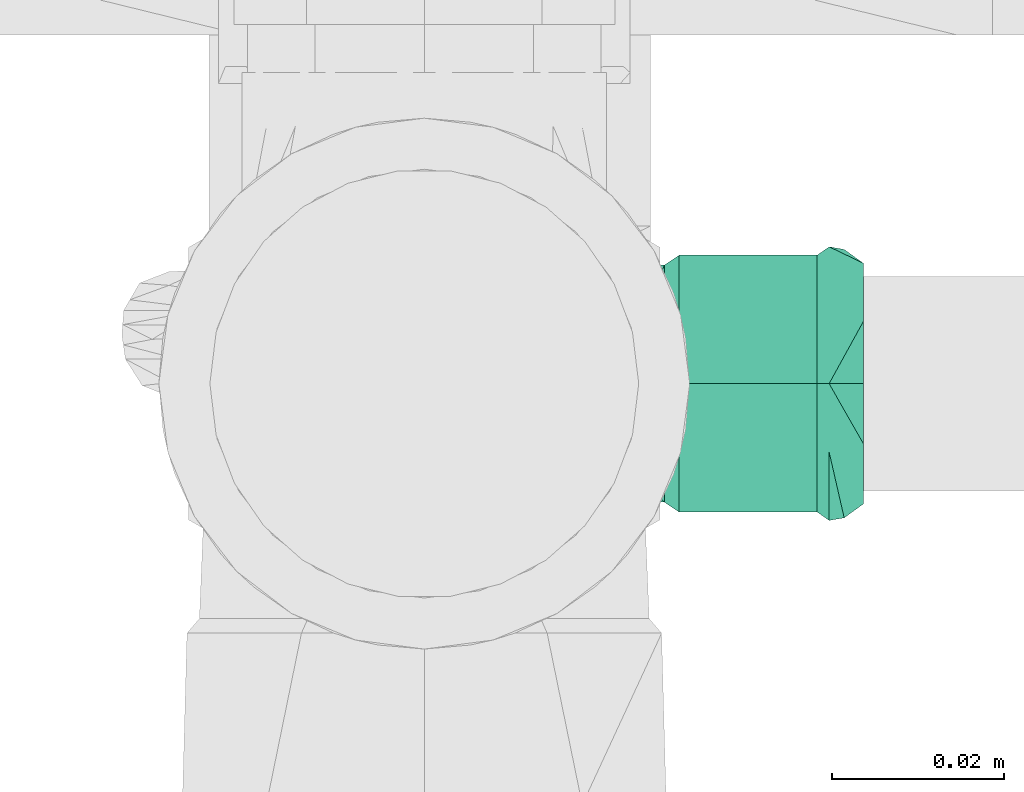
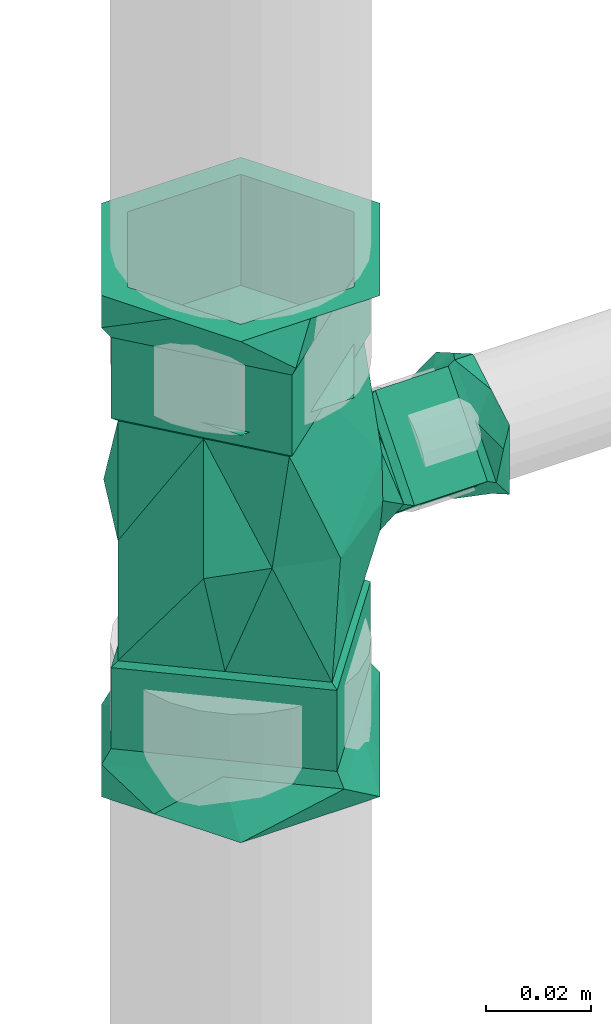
# One storey, part 241 of 589: 1 flow fitting.
"""IFC2X3 building model written with IfcOpenShell, lengths in millimetres."""

from ifc_helpers import new_model, entity, si_unit, converted_unit, derived_unit, direction, frame, origin, place, context, subcontext, project, spatial, faceted_brep, source, transform, mapped, material, type_object, type_shapes, element, save


model = new_model("IFC2X3")

# Units and contexts
model_context = context("Model", 3, precision=0.01, world=origin(), true_north=direction((6.123031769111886e-17, 1.0)))
body_context = subcontext(model_context, "Body", "Model", "MODEL_VIEW")
ifc_project = project(units=[si_unit("LENGTHUNIT", "METRE", prefix="MILLI"), si_unit("AREAUNIT", "SQUARE_METRE"), si_unit("VOLUMEUNIT", "CUBIC_METRE"), converted_unit("PLANEANGLEUNIT", "DEGREE", entity("IfcRatioMeasure", 0.017453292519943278), si_unit("PLANEANGLEUNIT", "RADIAN"), dimensions=[0, 0, 0, 0, 0, 0, 0]), si_unit("MASSUNIT", "GRAM", prefix="KILO"), derived_unit("MASSDENSITYUNIT", [(si_unit("MASSUNIT", "GRAM", prefix="KILO"), 1), (si_unit("LENGTHUNIT", "METRE"), -3)]), derived_unit("IONCONCENTRATIONUNIT", [(si_unit("MASSUNIT", "GRAM", prefix="KILO"), 1), (si_unit("LENGTHUNIT", "METRE"), -3)]), derived_unit("MOMENTOFINERTIAUNIT", [(si_unit("LENGTHUNIT", "METRE"), 4)]), si_unit("TIMEUNIT", "SECOND"), si_unit("FREQUENCYUNIT", "HERTZ"), si_unit("THERMODYNAMICTEMPERATUREUNIT", "DEGREE_CELSIUS"), derived_unit("THERMALTRANSMITTANCEUNIT", [(si_unit("MASSUNIT", "GRAM", prefix="KILO"), 1), (si_unit("THERMODYNAMICTEMPERATUREUNIT", "KELVIN"), -1), (si_unit("TIMEUNIT", "SECOND"), -3)]), derived_unit("THERMALCONDUCTANCEUNIT", [(si_unit("MASSUNIT", "GRAM", prefix="KILO"), 1), (si_unit("THERMODYNAMICTEMPERATUREUNIT", "KELVIN"), -1), (si_unit("TIMEUNIT", "SECOND"), -3), (si_unit("LENGTHUNIT", "METRE"), 1)]), derived_unit("VOLUMETRICFLOWRATEUNIT", [(si_unit("LENGTHUNIT", "METRE"), 3), (si_unit("TIMEUNIT", "SECOND"), -1)]), derived_unit("MASSFLOWRATEUNIT", [(si_unit("MASSUNIT", "GRAM", prefix="KILO"), 1), (si_unit("TIMEUNIT", "SECOND"), -1)]), derived_unit("ROTATIONALFREQUENCYUNIT", [(si_unit("TIMEUNIT", "SECOND"), -1)]), si_unit("ELECTRICCURRENTUNIT", "AMPERE"), si_unit("ELECTRICVOLTAGEUNIT", "VOLT"), si_unit("POWERUNIT", "WATT"), si_unit("FORCEUNIT", "NEWTON", prefix="KILO"), si_unit("ILLUMINANCEUNIT", "LUX"), si_unit("LUMINOUSFLUXUNIT", "LUMEN"), si_unit("LUMINOUSINTENSITYUNIT", "CANDELA"), derived_unit("USERDEFINED", [(si_unit("MASSUNIT", "GRAM", prefix="KILO"), -1), (si_unit("LENGTHUNIT", "METRE"), -2), (si_unit("TIMEUNIT", "SECOND"), 3), (si_unit("LUMINOUSFLUXUNIT", "LUMEN"), 1)]), derived_unit("USERDEFINED", [(si_unit("MASSUNIT", "GRAM", prefix="KILO"), 1), (si_unit("TIMEUNIT", "SECOND"), -3), (si_unit("LENGTHUNIT", "METRE"), 3), (si_unit("ELECTRICCURRENTUNIT", "AMPERE"), -2)]), derived_unit("SOUNDPOWERUNIT", [(si_unit("MASSUNIT", "GRAM", prefix="KILO"), 1), (si_unit("TIMEUNIT", "SECOND"), -3), (si_unit("LENGTHUNIT", "METRE"), 2)]), derived_unit("SOUNDPRESSUREUNIT", [(si_unit("MASSUNIT", "GRAM", prefix="KILO"), 1), (si_unit("LENGTHUNIT", "METRE"), -1), (si_unit("TIMEUNIT", "SECOND"), -2)]), derived_unit("LINEARVELOCITYUNIT", [(si_unit("LENGTHUNIT", "METRE"), 1), (si_unit("TIMEUNIT", "SECOND"), -1)]), si_unit("PRESSUREUNIT", "PASCAL"), derived_unit("USERDEFINED", [(si_unit("MASSUNIT", "GRAM", prefix="KILO"), 1), (si_unit("LENGTHUNIT", "METRE"), -2), (si_unit("TIMEUNIT", "SECOND"), -2)]), derived_unit("LINEARFORCEUNIT", [(si_unit("MASSUNIT", "GRAM", prefix="KILO"), 1), (si_unit("TIMEUNIT", "SECOND"), -2)]), derived_unit("PLANARFORCEUNIT", [(si_unit("MASSUNIT", "GRAM", prefix="KILO"), 1), (si_unit("LENGTHUNIT", "METRE"), -1), (si_unit("TIMEUNIT", "SECOND"), -2)]), derived_unit("SPECIFICHEATCAPACITYUNIT", [(si_unit("THERMODYNAMICTEMPERATUREUNIT", "KELVIN"), -1), (si_unit("LENGTHUNIT", "METRE"), 2), (si_unit("TIMEUNIT", "SECOND"), -2)]), derived_unit("HEATINGVALUEUNIT", [(si_unit("LENGTHUNIT", "METRE"), 2), (si_unit("TIMEUNIT", "SECOND"), -2)]), derived_unit("VAPORPERMEABILITYUNIT", [(si_unit("LENGTHUNIT", "METRE"), -1), (si_unit("TIMEUNIT", "SECOND"), 1)]), derived_unit("DYNAMICVISCOSITYUNIT", [(si_unit("MASSUNIT", "GRAM", prefix="KILO"), 1), (si_unit("TIMEUNIT", "SECOND"), -1), (si_unit("LENGTHUNIT", "METRE"), -1)]), derived_unit("THERMALEXPANSIONCOEFFICIENTUNIT", [(si_unit("THERMODYNAMICTEMPERATUREUNIT", "KELVIN"), -1)]), derived_unit("MODULUSOFELASTICITYUNIT", [(si_unit("MASSUNIT", "GRAM", prefix="KILO"), 1), (si_unit("LENGTHUNIT", "METRE"), -1), (si_unit("TIMEUNIT", "SECOND"), -2)]), derived_unit("ISOTHERMALMOISTURECAPACITYUNIT", [(si_unit("LENGTHUNIT", "METRE"), 3), (si_unit("MASSUNIT", "GRAM", prefix="KILO"), -1)]), derived_unit("MOISTUREDIFFUSIVITYUNIT", [(si_unit("TIMEUNIT", "SECOND"), -1), (si_unit("LENGTHUNIT", "METRE"), 2)])], contexts=[model_context])

# Site, building, storey
site_placement = place(None, origin())
site = spatial("IfcSite", under=ifc_project, at=site_placement, Name="Default", CompositionType="ELEMENT")
building_placement = place(site_placement, origin())
building = spatial("IfcBuilding", under=site, at=building_placement, CompositionType="ELEMENT")
storey_placement = place(building_placement, frame((0.0, 0.0, 100.0)))
storey = spatial("IfcBuildingStorey", under=building, at=storey_placement, Name="TÉRREO", CompositionType="ELEMENT", Elevation=100.0)

# Flow fitting
ifc_material = material(Name="PVC Marrom")
pipe_fitting_type = type_object("IfcPipeFittingType", Name="PVC Marrom Soldável_Tê e Tê de Reducão_Rodrigo MEP:Tê", PredefinedType="NOTDEFINED", material=ifc_material)
shared_shape = source(origin(), body_context, "Body", "Brep", [
    faceted_brep([(8.099999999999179, -51.19999999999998, -14.029611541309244), (12.500000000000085, -51.19999999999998, 0.0), (6.249999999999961, -51.199999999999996, -10.82531754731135), (12.006116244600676, -51.19999999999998, -7.26401974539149), (-6.250000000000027, -51.20000000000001, -10.825317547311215), (0.0, -51.2, -14.02961154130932), (16.20000000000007, -51.199999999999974, 0.0), (6.250000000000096, -51.199999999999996, 10.825317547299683), (12.15000000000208, -51.19999999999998, 7.014805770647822), (8.10000000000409, -51.19999999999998, 14.029611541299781), (-6.249999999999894, -51.20000000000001, 10.825317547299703), (0.0, -51.2, 14.02961154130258), (-8.09999999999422, -51.20000000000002, 14.029611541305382), (-12.00611625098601, -51.20000000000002, 7.2640197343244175), (-16.199999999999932, -51.200000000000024, 0.0), (-12.499999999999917, -51.20000000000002, 0.0), (-12.149999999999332, -51.20000000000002, -7.014805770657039), (-8.099999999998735, -51.20000000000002, -14.0296115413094), (-9.505660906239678, -47.19999999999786, 7.977099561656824), (-2.81132181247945, -47.19999999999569, 15.95419912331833), (4.194176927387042, -48.95626714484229, 15.647647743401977), (-16.199999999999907, -47.200000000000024, 0.0), (16.200000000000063, -47.199999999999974, 0.0), (6.694339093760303, -47.19999999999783, 7.977099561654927), (10.200288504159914, -47.19999999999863, 5.034925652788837), (1.941508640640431, -47.1999999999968, 11.965649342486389), (9.50766188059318, -47.19999999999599, -7.976746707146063), (2.8153237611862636, -47.19999999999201, -15.953493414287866), (-4.191233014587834, -48.95635467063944, -15.648436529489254), (-6.692338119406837, -47.199999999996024, -7.97674670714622), (-10.19988795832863, -47.199999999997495, -5.033979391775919), (-1.938507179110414, -47.199999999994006, -11.965120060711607), (-6.250000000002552, -47.2, -10.825317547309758), (-9.37499999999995, -47.20000000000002, -5.412658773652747), (-12.499999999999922, -47.20000000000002, 0.0), (-8.816048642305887, -45.80000000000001, -6.380790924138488), (-6.249999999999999, -45.80000000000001, -10.82531754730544), (-6.249999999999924, -33.7, -10.825317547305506), (-12.499999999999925, -45.80000000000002, 0.0), (-12.499999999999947, -33.70000000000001, 0.0), (0.0, -47.199999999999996, -10.82531754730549), (6.250000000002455, -47.19999999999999, -10.825317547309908), (6.249999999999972, -45.8, -10.825317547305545), (0.0, -45.800000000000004, -10.825317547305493), (6.250000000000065, -33.699999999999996, -10.825317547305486), (12.50000000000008, -47.19999999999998, 0.0), (8.816048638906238, -47.19999999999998, -6.380790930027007), (9.375000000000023, -45.8, -5.4126587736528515), (12.500000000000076, -45.799999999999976, 0.0), (12.500000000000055, -33.69999999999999, 0.0), (6.249999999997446, -47.19999999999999, 10.825317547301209), (9.37500000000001, -47.19999999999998, 5.4126587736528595), (8.81604864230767, -45.8, 6.380790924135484), (6.249999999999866, -45.8, 10.825317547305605), (6.2499999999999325, -33.699999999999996, 10.825317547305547), (0.0, -47.199999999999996, 10.82531754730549), (-6.2499999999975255, -47.2, 10.82531754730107), (-6.250000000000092, -45.80000000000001, 10.825317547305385), (0.0, -45.800000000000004, 10.825317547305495), (-6.250000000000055, -33.7, 10.825317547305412), (-8.816048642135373, -47.20000000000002, 6.380790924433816), (-9.375000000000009, -45.80000000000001, 5.412658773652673), (-9.570641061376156, -45.79999999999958, -4.724127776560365), (2.6377834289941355, -45.799999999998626, -14.96937201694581), (15.200000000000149, -45.799999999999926, 0.0), (-15.199999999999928, -45.800000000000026, 0.0), (-9.79862070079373, -45.79999999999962, -4.5328084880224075), (8.918891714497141, -45.79999999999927, -7.484686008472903), (-3.941282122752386, -45.799999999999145, -9.44825555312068), (-4.397241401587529, -45.79999999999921, -9.065616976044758), (10.739615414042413, -45.80000000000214, 3.7421774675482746), (6.279230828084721, -45.80000000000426, 7.484354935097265), (1.8188462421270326, -45.80000000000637, 11.226532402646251), (-2.641538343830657, -45.80000000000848, 14.96870987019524), (-6.443631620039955, -45.80000000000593, 10.436910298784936), (-8.920769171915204, -45.800000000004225, 7.484354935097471), (-10.245724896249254, -45.80000000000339, 5.9051107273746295), (-8.918891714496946, -29.700000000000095, 7.4846860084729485), (9.798620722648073, -29.70000000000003, 4.532808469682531), (6.281108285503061, -29.700000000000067, 7.484686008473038), (4.3972414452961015, -29.70000000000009, 9.065616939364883), (-15.199999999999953, -29.700000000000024, 0.0), (-2.637783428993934, -29.70000000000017, 14.96937201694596), (15.200000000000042, -29.699999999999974, 0.0), (8.920769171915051, -29.699999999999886, -7.484354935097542), (2.6415383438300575, -29.699999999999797, -14.968709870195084), (-6.279230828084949, -29.699999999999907, -7.484354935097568), (-8.651615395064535, -28.0, -4.521903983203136), (-5.801761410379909, -28.0, -6.91348643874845), (-3.263230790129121, -28.0, -9.043807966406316), (-14.039999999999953, -28.0, 0.0), (2.436477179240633, -28.0, -13.826972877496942), (8.238238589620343, -28.0, -6.913486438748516), (14.040000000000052, -28.0, 0.0), (5.800025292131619, -28.0, 6.913180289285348), (-2.439949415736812, -28.0, 13.826360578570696), (-9.297801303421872, -28.0, 5.652333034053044), (-8.239974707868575, -28.0, 6.913180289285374), (-13.993250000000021, -27.149999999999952, 0.0), (-8.698026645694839, -24.90789224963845, -10.803675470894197), (0.0, -23.389258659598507, -13.786409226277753), (13.993249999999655, -27.149999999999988, 0.0), (10.886120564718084, -25.729354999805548, -8.667340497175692), (8.698026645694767, -24.907892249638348, 10.803675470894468), (0.0, -23.389258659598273, 13.786409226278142), (-10.886120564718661, -25.729354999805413, 8.667340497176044), (-32.59999999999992, -25.0, 0.0), (-32.59999999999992, -19.790106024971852, 9.023801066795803), (-32.59999999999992, -12.500000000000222, 21.650635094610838), (-32.59999999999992, 0.0, 21.65063509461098), (-32.59999999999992, 12.499999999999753, 21.65063509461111), (-32.59999999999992, 18.749999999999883, 10.825317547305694), (-32.59999999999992, 25.0, 0.0), (-32.59999999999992, 19.790105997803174, -9.023801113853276), (-32.59999999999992, 12.500000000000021, -21.65063509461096), (-32.59999999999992, 0.0, -21.65063509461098), (-32.59999999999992, -12.49999999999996, -21.650635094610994), (-32.59999999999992, -18.749999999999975, -10.825317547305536), (-48.0, -12.500000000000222, 21.650635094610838), (-48.0, -18.750000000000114, 10.825317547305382), (-58.50000000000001, -18.75000000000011, 10.82531754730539), (-58.50000000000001, -12.500000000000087, 21.650635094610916), (-48.0, -19.790106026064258, 9.02380106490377), (-48.0, -25.0, 0.0), (-58.50000000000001, -25.0, 0.0), (32.60000000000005, -25.0, 0.0), (32.60000000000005, -18.74999999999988, 10.825317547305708), (32.60000000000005, -12.499999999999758, 21.65063509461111), (58.5, -12.499999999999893, 21.650635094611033), (58.500000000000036, -19.97114481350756, 8.71023268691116), (58.5, -25.0, 0.0), (-48.0, 0.0, 21.650635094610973), (-48.0, 12.499999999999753, 21.65063509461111), (-58.50000000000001, 0.0, 21.650635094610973), (-58.50000000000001, 12.499999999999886, 21.650635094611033), (32.60000000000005, 0.0, 21.650635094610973), (32.60000000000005, 12.500000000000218, 21.650635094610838), (58.5, 12.500000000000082, 21.650635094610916), (58.5, 0.0, 21.650635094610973), (-48.0, 19.790106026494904, 9.023801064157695), (-48.0, 25.0, 0.0), (-48.0, 18.749999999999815, 10.825317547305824), (-58.49999999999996, 19.79010602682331, 9.023801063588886), (-58.50000000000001, 25.0, 0.0), (32.60000000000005, 19.97114481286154, 8.71023268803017), (32.60000000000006, 25.0, 0.0), (58.5, 25.0, 0.0), (58.5, 18.75000000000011, 10.825317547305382), (-48.0, 12.49999999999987, -21.650635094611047), (-48.0, 18.749999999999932, -10.825317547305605), (-58.50000000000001, 18.749999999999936, -10.825317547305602), (-58.50000000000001, 12.499999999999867, -21.650635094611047), (-48.0, 19.790106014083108, -9.023801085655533), (32.60000000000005, 18.749999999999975, -10.82531754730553), (32.60000000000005, 12.499999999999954, -21.650635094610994), (58.5, 12.5000000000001, -21.650635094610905), (58.500000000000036, 19.97114481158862, -8.710232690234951), (-48.0, 0.0, -21.65063509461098), (-48.0, -12.50000000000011, -21.650635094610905), (-58.50000000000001, 0.0, -21.65063509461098), (-58.50000000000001, -12.500000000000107, -21.650635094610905), (32.60000000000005, 0.0, -21.65063509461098), (32.60000000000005, -12.500000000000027, -21.65063509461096), (58.5, -12.499999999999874, -21.650635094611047), (58.5, 0.0, -21.65063509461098), (-48.0, -19.790106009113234, -9.02380109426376), (-48.0, -18.75000000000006, -10.825317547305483), (-58.49999999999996, -19.79010602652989, -9.023801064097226), (32.60000000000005, -19.971144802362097, -8.710232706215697), (58.5, -18.749999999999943, -10.825317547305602), (-28.0, 15.934137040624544, -13.368436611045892), (0.0, 27.15, 0.0), (0.0, 19.249777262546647, -19.145980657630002), (0.0, 6.194218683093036, -22.707339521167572), (-28.0, 20.511742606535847, -7.912286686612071), (-28.0, 27.15, 0.0), (0.0, -6.861339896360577, -26.268698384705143), (-28.0, 4.718274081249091, -26.73687322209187), (-28.0, -27.15, 0.0), (-28.0, -19.18293147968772, -6.684218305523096), (-28.0, -11.215862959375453, -13.368436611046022), (-28.0, -3.2487944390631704, -20.052654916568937), (-28.0, 10.326205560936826, -20.052654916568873), (-28.0, -15.930783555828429, 13.369027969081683), (0.0, -6.86133989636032, 26.268698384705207), (-28.0, -4.711567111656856, 26.738055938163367), (-28.0, -10.32117533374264, 20.053541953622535), (0.0, 19.24977726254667, 19.145980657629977), (-28.0, 19.60719441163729, 6.329881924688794), (-28.0, 11.219216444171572, 13.369027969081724), (0.0, 6.194218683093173, 22.707339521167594), (-28.0, 3.2538246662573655, 20.05354195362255), (-28.0, -20.510950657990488, 7.911215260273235), (-29.099999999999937, 16.81093734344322, -14.107648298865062), (-29.099999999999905, 10.891406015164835, -21.16147244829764), (-29.099999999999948, -12.730929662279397, -13.359198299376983), (-29.099999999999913, -3.8795274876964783, -20.787247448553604), (-29.099999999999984, -20.690464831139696, -6.679599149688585), (-29.099999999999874, 4.97187468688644, -28.215296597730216), (-29.1, 28.650000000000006, 0.0), (-29.099999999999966, 22.730468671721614, -7.053824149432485), (-29.09999999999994, -11.83906265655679, -14.107648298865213), (-29.100000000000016, -28.649999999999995, 0.0), (-29.100000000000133, -9.809464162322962, 22.456453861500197), (-29.100000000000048, -21.64498805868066, 8.349429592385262), (-29.10000000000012, 3.4282858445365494, 21.160536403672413), (-29.10000000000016, -4.978952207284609, 28.21404853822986), (-29.100000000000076, 11.835523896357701, 14.107024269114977), (-29.10000000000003, 20.242761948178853, 7.053512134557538), (-29.100000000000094, -14.639976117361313, 16.698859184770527), (-29.10000000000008, -16.814476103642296, 14.107024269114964), (-48.0, -4.978952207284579, 28.214048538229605), (-48.0, 28.650000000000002, 0.0), (-48.0, 12.939627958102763, 13.18070205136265), (-48.0, 11.835523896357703, 14.107024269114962), (-48.0, -16.81447610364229, 14.107024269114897), (-48.0, -28.650000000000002, 0.0), (-48.0, 4.971874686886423, -28.215296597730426), (-48.0, -12.94067667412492, -13.183179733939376), (-48.0, -11.839062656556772, -14.107648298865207), (-48.0, 16.81093734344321, -14.107648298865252), (-51.0, 16.175349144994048, -17.370576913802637), (-51.0, 18.04585747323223, -15.141239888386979), (-51.0, 30.75, 0.0), (-51.0, -12.704142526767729, -15.141239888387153), (-51.0, 5.341714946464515, -30.282479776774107), (-51.0, -30.74999999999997, 0.0), (-51.0, -5.3380546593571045, 30.283125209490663), (-51.0, -18.044027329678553, 15.141562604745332), (-51.0, 4.425812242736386, 22.08982117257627), (-51.0, 14.189679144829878, 13.896517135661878), (-51.0, 12.705972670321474, 15.141562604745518), (-58.50000000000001, -15.375000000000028, -26.63028116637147), (-58.500000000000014, -24.971948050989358, -10.007879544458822), (-58.50000000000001, 0.0, -26.6302811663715), (-58.50000000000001, -30.75, 0.0), (-58.50000000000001, -23.06249999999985, 13.315140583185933), (-58.50000000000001, -15.374999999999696, 26.630281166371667), (-58.50000000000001, 0.0, 26.6302811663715), (-58.50000000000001, 15.375000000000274, 26.63028116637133), (-58.500000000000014, 24.97194806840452, 10.007879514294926), (-58.50000000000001, 30.75, 0.0), (-58.50000000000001, 23.062499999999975, -13.315140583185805), (-58.50000000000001, 15.374999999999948, -26.630281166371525), (51.0, 30.749999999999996, 0.0), (58.5, 23.06249999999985, 13.315140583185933), (58.5, 30.75, 0.0), (51.0, -30.749999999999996, 0.0), (58.5, -30.75, 0.0), (58.5, -24.97194806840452, 10.007879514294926), (58.5, -23.062499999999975, -13.315140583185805), (58.5, 24.971948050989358, -10.007879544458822), (28.0, -15.934137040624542, -13.36843661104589), (28.0, -27.15, 0.0), (28.0, -4.718274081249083, -26.736873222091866), (28.0, -10.326205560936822, -20.05265491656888), (28.0, 27.15, 0.0), (28.0, 19.182931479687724, -6.6842183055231), (28.0, 11.215862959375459, -13.368436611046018), (28.0, 3.248794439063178, -20.052654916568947), (28.0, -20.511742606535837, -7.912286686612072), (28.0, 15.930783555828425, 13.369027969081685), (28.0, 20.51095065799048, 7.9112152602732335), (28.0, 4.711567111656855, 26.73805593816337), (28.0, -19.607194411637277, 6.329881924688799), (28.0, -11.21921644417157, 13.36902796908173), (28.0, -3.2538246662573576, 20.05354195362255), (28.0, 10.321175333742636, 20.053541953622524), (29.099999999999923, -16.81093734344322, -14.107648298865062), (29.09999999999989, -10.891406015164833, -21.16147244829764), (29.099999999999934, 12.730929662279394, -13.359198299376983), (29.09999999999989, 3.879527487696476, -20.787247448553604), (29.099999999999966, 20.690464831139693, -6.679599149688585), (29.099999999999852, -4.971874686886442, -28.215296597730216), (29.1, -28.650000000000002, 0.0), (29.099999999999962, -22.73046867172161, -7.053824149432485), (29.099999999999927, 11.83906265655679, -14.107648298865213), (29.1, 28.64999999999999, 0.0), (29.10000000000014, 9.809464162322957, 22.45645386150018), (29.10000000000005, 21.644988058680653, 8.349429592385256), (29.100000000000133, -3.4282858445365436, 21.160536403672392), (29.100000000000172, 4.978952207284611, 28.214048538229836), (29.100000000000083, -11.83552389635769, 14.107024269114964), (29.100000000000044, -20.242761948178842, 7.053512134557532), (29.1000000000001, 14.639976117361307, 16.69885918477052), (29.10000000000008, 16.814476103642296, 14.107024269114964), (48.0, 4.978952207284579, 28.214048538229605), (48.0, -28.650000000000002, 0.0), (48.0, -12.939627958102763, 13.18070205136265), (48.0, -11.835523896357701, 14.107024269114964), (48.0, 16.81447610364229, 14.107024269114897), (48.0, 28.650000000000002, 0.0), (48.0, -4.971874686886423, -28.215296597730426), (48.0, 12.94067667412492, -13.183179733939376), (48.0, 11.83906265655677, -14.107648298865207), (48.0, -16.81093734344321, -14.107648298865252), (51.0, -16.174511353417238, -17.369443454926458), (51.0, -18.044027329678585, -15.141562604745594), (51.0, 12.70597267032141, -15.141562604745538), (51.0, -5.33805465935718, -30.283125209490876), (51.0, 5.341714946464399, 30.28247977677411), (51.0, 18.045857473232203, 15.141239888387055), (51.0, -4.423715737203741, 22.088869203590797), (51.0, -14.189146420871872, 13.895258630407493), (51.0, -12.70414252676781, 15.141239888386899), (58.5, 15.375000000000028, -26.63028116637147), (58.5, 0.0, -26.6302811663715), (58.5, 15.374999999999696, 26.630281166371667), (58.5, 0.0, 26.6302811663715), (58.5, -15.375000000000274, 26.63028116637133), (58.5, -15.374999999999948, -26.630281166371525)], [[[0, 1, 2]], [[1, 0, 3]], [[0, 2, 4]], [[4, 5, 0]], [[1, 3, 6]], [[7, 1, 6]], [[7, 6, 8]], [[7, 8, 9]], [[7, 9, 10]], [[10, 9, 11]], [[10, 11, 12]], [[10, 12, 13]], [[10, 13, 14]], [[14, 15, 10]], [[15, 14, 16]], [[15, 16, 17]], [[17, 4, 15]], [[4, 17, 5]], [[18, 12, 19]], [[12, 20, 19]], [[18, 21, 13]], [[21, 14, 13]], [[22, 8, 6]], [[20, 8, 23]], [[8, 22, 24, 23]], [[20, 23, 25, 19]], [[20, 12, 11, 9]], [[8, 20, 9]], [[12, 18, 13]], [[26, 0, 27]], [[0, 28, 27]], [[26, 22, 3]], [[22, 6, 3]], [[21, 16, 14]], [[28, 16, 29]], [[16, 21, 30, 29]], [[28, 29, 31, 27]], [[28, 0, 5, 17]], [[16, 28, 17]], [[0, 26, 3]], [[4, 32, 33]], [[4, 33, 34]], [[34, 15, 4]], [[33, 32, 35]], [[36, 35, 32]], [[37, 35, 36]], [[37, 38, 35]], [[38, 37, 39]], [[38, 34, 33]], [[33, 35, 38]], [[4, 2, 32]], [[2, 40, 32]], [[2, 41, 40]], [[42, 40, 41]], [[43, 40, 42]], [[44, 43, 42]], [[44, 36, 43]], [[44, 37, 36]], [[43, 36, 32]], [[32, 40, 43]], [[1, 45, 46]], [[1, 46, 41]], [[41, 2, 1]], [[47, 46, 45]], [[45, 48, 47]], [[49, 47, 48]], [[49, 42, 47]], [[42, 49, 44]], [[41, 46, 42]], [[47, 42, 46]], [[7, 50, 51]], [[7, 51, 45]], [[45, 1, 7]], [[51, 50, 52]], [[53, 52, 50]], [[54, 52, 53]], [[54, 48, 52]], [[48, 54, 49]], [[48, 45, 51]], [[51, 52, 48]], [[7, 10, 50]], [[10, 55, 50]], [[10, 56, 55]], [[57, 55, 56]], [[58, 55, 57]], [[59, 58, 57]], [[59, 53, 58]], [[59, 54, 53]], [[58, 53, 50]], [[50, 55, 58]], [[15, 34, 60]], [[15, 60, 56]], [[56, 10, 15]], [[61, 60, 34]], [[34, 38, 61]], [[39, 61, 38]], [[39, 57, 61]], [[57, 39, 59]], [[56, 60, 57]], [[61, 57, 60]], [[30, 62, 29]], [[31, 63, 27]], [[22, 26, 64]], [[30, 65, 66, 62]], [[27, 63, 67]], [[67, 26, 27]], [[21, 65, 30]], [[63, 31, 68]], [[64, 26, 67]], [[29, 62, 69, 68]], [[31, 29, 68]], [[22, 64, 70]], [[25, 71, 72]], [[72, 19, 25]], [[71, 25, 23, 24]], [[19, 73, 74]], [[18, 74, 75, 76]], [[24, 70, 71]], [[76, 21, 18]], [[76, 65, 21]], [[22, 70, 24]], [[72, 73, 19]], [[19, 74, 18]], [[77, 75, 74, 73]], [[71, 78, 79, 80]], [[81, 65, 76, 75]], [[78, 71, 70, 64]], [[80, 82, 73]], [[81, 75, 77]], [[73, 82, 77]], [[78, 64, 83]], [[80, 73, 72, 71]], [[64, 84, 83]], [[84, 64, 67]], [[85, 63, 68, 69]], [[66, 65, 81]], [[85, 69, 86]], [[86, 69, 62, 66]], [[63, 85, 67]], [[81, 86, 66]], [[67, 85, 84]], [[81, 87, 86]], [[86, 87, 88, 89]], [[87, 81, 90]], [[85, 89, 91]], [[85, 91, 92]], [[92, 84, 85]], [[93, 84, 92]], [[89, 85, 86]], [[83, 84, 93]], [[93, 79, 78, 83]], [[94, 82, 80, 79]], [[82, 94, 95]], [[95, 77, 82]], [[96, 90, 81]], [[77, 95, 97, 96]], [[96, 81, 77]], [[93, 94, 79]], [[98, 88, 87, 90]], [[98, 99, 88]], [[99, 100, 91]], [[101, 93, 92]], [[99, 91, 89, 88]], [[101, 92, 102]], [[92, 91, 102]], [[102, 91, 100]], [[101, 94, 93]], [[101, 103, 94]], [[103, 104, 95]], [[98, 90, 96, 97]], [[103, 95, 94]], [[98, 97, 105]], [[97, 95, 105]], [[105, 95, 104]], [[39, 37, 44, 49, 54, 59]], [[106, 107, 108, 109, 110, 111, 112, 113, 114, 115, 116, 117]], [[118, 108, 119]], [[120, 118, 119]], [[121, 118, 120]], [[107, 119, 108]], [[107, 122, 119]], [[107, 123, 122]], [[107, 106, 123]], [[122, 123, 124]], [[124, 120, 122]], [[120, 119, 122]], [[125, 126, 127, 128, 129, 130]], [[110, 109, 131]], [[131, 132, 110]], [[131, 109, 118]], [[118, 109, 108]], [[121, 131, 118]], [[133, 131, 121]], [[132, 131, 133]], [[133, 134, 132]], [[127, 135, 136, 137, 138, 128]], [[112, 111, 139]], [[139, 140, 112]], [[111, 141, 139]], [[111, 132, 141]], [[110, 132, 111]], [[132, 134, 141]], [[142, 141, 134]], [[142, 140, 139]], [[142, 143, 140]], [[142, 139, 141]], [[137, 136, 144, 145, 146, 147]], [[148, 114, 149]], [[150, 148, 149]], [[151, 148, 150]], [[113, 149, 114]], [[113, 152, 149]], [[113, 140, 152]], [[113, 112, 140]], [[152, 140, 143]], [[143, 150, 152]], [[150, 149, 152]], [[145, 153, 154, 155, 156, 146]], [[116, 115, 157]], [[157, 158, 116]], [[157, 115, 148]], [[148, 115, 114]], [[151, 157, 148]], [[159, 157, 151]], [[158, 157, 159]], [[159, 160, 158]], [[154, 161, 162, 163, 164, 155]], [[106, 117, 165]], [[165, 123, 106]], [[117, 166, 165]], [[117, 158, 166]], [[116, 158, 117]], [[158, 160, 166]], [[167, 166, 160]], [[167, 123, 165]], [[167, 124, 123]], [[167, 165, 166]], [[163, 162, 168, 125, 130, 169]], [[170, 171, 172]], [[170, 172, 173]], [[171, 170, 174, 175]], [[176, 177, 173]], [[176, 100, 99]], [[99, 178, 179, 180]], [[99, 98, 178]], [[176, 180, 181, 177]], [[173, 177, 182, 170]], [[180, 176, 99]], [[183, 105, 104]], [[178, 98, 105]], [[184, 185, 186, 183]], [[187, 171, 175]], [[187, 175, 188, 189]], [[190, 187, 189]], [[190, 189, 191, 185]], [[105, 183, 192, 178]], [[185, 184, 190]], [[104, 184, 183]], [[170, 182, 193, 174]], [[177, 194, 182]], [[180, 179, 195]], [[181, 180, 196]], [[178, 197, 179]], [[198, 177, 181]], [[199, 175, 200]], [[194, 177, 198]], [[180, 195, 201, 196]], [[198, 181, 196]], [[175, 174, 200]], [[174, 193, 200]], [[197, 178, 202]], [[197, 195, 179]], [[194, 193, 182]], [[185, 203, 186]], [[202, 178, 204]], [[185, 205, 206]], [[207, 189, 208]], [[209, 183, 186]], [[175, 199, 188]], [[191, 207, 205]], [[183, 209, 210, 204]], [[188, 208, 189]], [[207, 191, 189]], [[185, 191, 205]], [[178, 192, 183, 204]], [[188, 199, 208]], [[203, 185, 206]], [[203, 209, 186]], [[211, 206, 205, 207, 208, 199, 212, 213, 214]], [[215, 216, 202, 204, 210, 209, 203, 206, 211]], [[217, 198, 196, 201, 195, 197, 202, 216, 218, 219]], [[220, 212, 199, 200, 193, 194, 198, 217]], [[217, 221, 220]], [[220, 221, 222, 223]], [[217, 224, 225]], [[226, 219, 218, 216]], [[223, 212, 220]], [[221, 217, 225]], [[224, 217, 219]], [[226, 224, 219]], [[211, 227, 228]], [[229, 227, 211]], [[229, 211, 214]], [[228, 215, 211]], [[212, 223, 230]], [[226, 215, 228]], [[214, 230, 231, 229]], [[216, 215, 226]], [[230, 214, 213, 212]], [[232, 124, 167]], [[124, 232, 233]], [[232, 167, 160]], [[232, 160, 159]], [[232, 159, 151]], [[151, 234, 232]], [[124, 233, 235]], [[235, 120, 124]], [[235, 121, 120]], [[121, 235, 236]], [[121, 236, 237]], [[237, 133, 121]], [[237, 134, 133]], [[134, 237, 238]], [[134, 238, 239]], [[134, 239, 240]], [[134, 240, 241]], [[241, 142, 134]], [[241, 143, 142]], [[143, 241, 242]], [[143, 242, 243]], [[243, 151, 150]], [[151, 243, 234]], [[243, 150, 143]], [[231, 240, 239]], [[240, 231, 230, 223]], [[223, 241, 240]], [[244, 245, 246]], [[226, 236, 235]], [[247, 248, 249]], [[227, 237, 228]], [[228, 237, 236]], [[226, 228, 236]], [[227, 239, 238, 237]], [[239, 227, 229, 231]], [[224, 233, 232]], [[224, 226, 233]], [[226, 235, 233]], [[247, 250, 248]], [[223, 242, 241]], [[244, 246, 251]], [[243, 222, 221, 225]], [[222, 243, 242]], [[223, 222, 242]], [[224, 234, 225]], [[225, 234, 243]], [[224, 232, 234]], [[252, 102, 100]], [[253, 101, 102]], [[176, 254, 255, 252]], [[172, 171, 256]], [[172, 256, 257, 258]], [[173, 172, 258]], [[173, 258, 259, 254]], [[102, 252, 260, 253]], [[254, 176, 173]], [[100, 176, 252]], [[261, 171, 187]], [[261, 187, 190]], [[171, 261, 262, 256]], [[184, 263, 190]], [[184, 104, 103]], [[103, 253, 264, 265]], [[103, 101, 253]], [[184, 265, 266, 263]], [[190, 263, 267, 261]], [[265, 184, 103]], [[252, 255, 268, 260]], [[254, 269, 255]], [[258, 257, 270]], [[259, 258, 271]], [[256, 272, 257]], [[273, 254, 259]], [[274, 253, 275]], [[269, 254, 273]], [[258, 270, 276, 271]], [[273, 259, 271]], [[253, 260, 275]], [[260, 268, 275]], [[272, 256, 277]], [[272, 270, 257]], [[269, 268, 255]], [[263, 278, 267]], [[277, 256, 279]], [[263, 280, 281]], [[282, 265, 283]], [[284, 261, 267]], [[253, 274, 264]], [[266, 282, 280]], [[261, 284, 285, 279]], [[264, 283, 265]], [[282, 266, 265]], [[263, 266, 280]], [[256, 262, 261, 279]], [[264, 274, 283]], [[278, 263, 281]], [[278, 284, 267]], [[286, 281, 280, 282, 283, 274, 287, 288, 289]], [[290, 291, 277, 279, 285, 284, 278, 281, 286]], [[292, 273, 271, 276, 270, 272, 277, 291, 293, 294]], [[295, 287, 274, 275, 268, 269, 273, 292]], [[292, 296, 295]], [[295, 296, 297, 247]], [[292, 298, 299]], [[244, 294, 293, 291]], [[247, 287, 295]], [[296, 292, 299]], [[298, 292, 294]], [[244, 298, 294]], [[286, 300, 301]], [[302, 300, 286]], [[302, 286, 289]], [[301, 290, 286]], [[287, 247, 303]], [[244, 290, 301]], [[289, 303, 304, 302]], [[291, 290, 244]], [[303, 289, 288, 287]], [[305, 146, 156]], [[146, 305, 251]], [[305, 156, 155]], [[305, 155, 164]], [[305, 164, 163]], [[163, 306, 305]], [[146, 251, 246]], [[246, 147, 146]], [[246, 137, 147]], [[137, 246, 245]], [[137, 245, 307]], [[307, 138, 137]], [[307, 128, 138]], [[128, 307, 308]], [[128, 308, 309]], [[128, 309, 249]], [[128, 249, 248]], [[248, 129, 128]], [[248, 130, 129]], [[130, 248, 250]], [[130, 250, 310]], [[310, 163, 169]], [[163, 310, 306]], [[310, 169, 130]], [[304, 249, 309]], [[249, 304, 303, 247]], [[300, 307, 301]], [[301, 307, 245]], [[244, 301, 245]], [[308, 300, 302, 304]], [[300, 308, 307]], [[304, 309, 308]], [[298, 251, 305]], [[298, 244, 251]], [[310, 297, 296, 299]], [[297, 310, 250]], [[247, 297, 250]], [[299, 305, 306, 310]], [[299, 298, 305]], [[145, 144, 136, 135, 127, 126, 125, 168, 162, 161, 154, 153]]]),
])
type_shapes(pipe_fitting_type, [shared_shape])
flow_fitting_placement = place(storey_placement, frame((-87.78535366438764, 3119.2147625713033, 1800.0), z_axis=(0.0, 1.0, 0.0), x_axis=(0.0, 0.0, -1.0)))
element("IfcFlowFitting", 1, at=flow_fitting_placement, inside=storey, type_object=pipe_fitting_type, material=ifc_material, Name="PVC Marrom Soldável_Tê e Tê de Reducão_Rodrigo MEP:Tê", ObjectType="PVC Marrom Soldável_Tê e Tê de Reducão_Rodrigo MEP:Tê", context=body_context, shape_type="MappedRepresentation", body=[
    mapped(shared_shape, transform((0.0, 0.0, 0.0), scale=1.0)),
])

save(model, "model.ifc")
